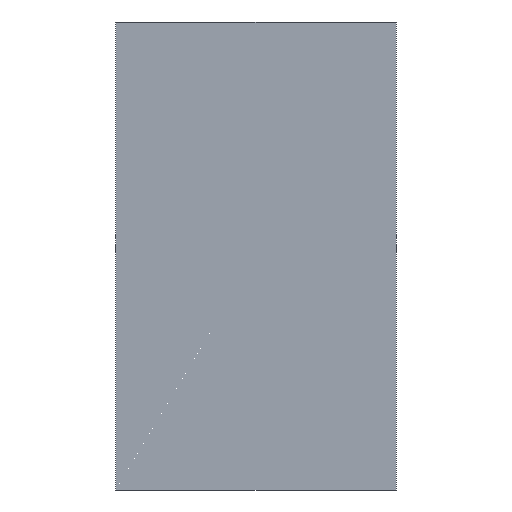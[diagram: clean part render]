
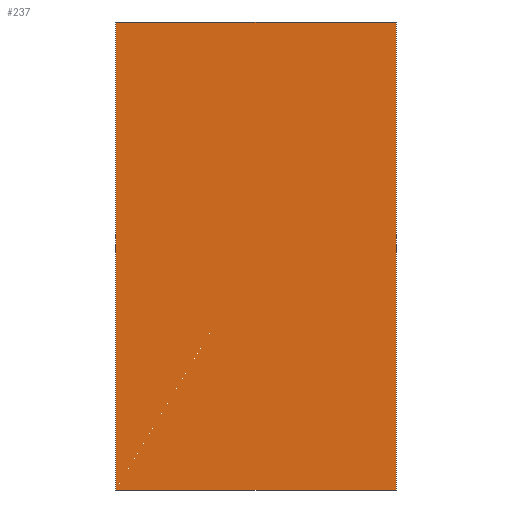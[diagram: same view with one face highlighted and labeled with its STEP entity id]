
A CAD part, front view. The second image highlights one B-rep face of the part: STEP entity #237.
In plain terms, the highlighted planar face has unit normal (0, -1, 0).
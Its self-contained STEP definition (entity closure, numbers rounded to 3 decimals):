
#21 = EDGE_CURVE('',#22,#24,#26,.T.);
#22 = VERTEX_POINT('',#23);
#23 = CARTESIAN_POINT('',(-384.5,-119.913,14.));
#24 = VERTEX_POINT('',#25);
#25 = CARTESIAN_POINT('',(-384.5,-119.913,19.));
#26 = SURFACE_CURVE('',#27,(#31,#43),.PCURVE_S1.);
#27 = LINE('',#28,#29);
#28 = CARTESIAN_POINT('',(-384.5,-119.913,14.));
#29 = VECTOR('',#30,1.);
#30 = DIRECTION('',(0.,0.,1.));
#31 = PCURVE('',#32,#37);
#32 = PLANE('',#33);
#33 = AXIS2_PLACEMENT_3D('',#34,#35,#36);
#34 = CARTESIAN_POINT('',(-384.5,-119.913,14.));
#35 = DIRECTION('',(1.,0.,-0.));
#36 = DIRECTION('',(0.,0.,1.));
#37 = DEFINITIONAL_REPRESENTATION('',(#38),#42);
#38 = LINE('',#39,#40);
#39 = CARTESIAN_POINT('',(0.,0.));
#40 = VECTOR('',#41,1.);
#41 = DIRECTION('',(1.,0.));
#42 = ( GEOMETRIC_REPRESENTATION_CONTEXT(2) 
PARAMETRIC_REPRESENTATION_CONTEXT() REPRESENTATION_CONTEXT('2D SPACE',''
  ) );
#43 = PCURVE('',#44,#49);
#44 = PLANE('',#45);
#45 = AXIS2_PLACEMENT_3D('',#46,#47,#48);
#46 = CARTESIAN_POINT('',(-384.5,-119.913,14.));
#47 = DIRECTION('',(-0.,1.,0.));
#48 = DIRECTION('',(0.,0.,1.));
#49 = DEFINITIONAL_REPRESENTATION('',(#50),#54);
#50 = LINE('',#51,#52);
#51 = CARTESIAN_POINT('',(0.,0.));
#52 = VECTOR('',#53,1.);
#53 = DIRECTION('',(1.,0.));
#54 = ( GEOMETRIC_REPRESENTATION_CONTEXT(2) 
PARAMETRIC_REPRESENTATION_CONTEXT() REPRESENTATION_CONTEXT('2D SPACE',''
  ) );
#72 = PLANE('',#73);
#73 = AXIS2_PLACEMENT_3D('',#74,#75,#76);
#74 = CARTESIAN_POINT('',(-384.5,-119.913,14.));
#75 = DIRECTION('',(0.,0.,1.));
#76 = DIRECTION('',(1.,0.,-0.));
#126 = PLANE('',#127);
#127 = AXIS2_PLACEMENT_3D('',#128,#129,#130);
#128 = CARTESIAN_POINT('',(-384.5,-119.913,19.));
#129 = DIRECTION('',(0.,0.,1.));
#130 = DIRECTION('',(1.,0.,-0.));
#141 = EDGE_CURVE('',#142,#144,#146,.T.);
#142 = VERTEX_POINT('',#143);
#143 = CARTESIAN_POINT('',(-381.5,-119.913,14.));
#144 = VERTEX_POINT('',#145);
#145 = CARTESIAN_POINT('',(-381.5,-119.913,19.));
#146 = SURFACE_CURVE('',#147,(#151,#163),.PCURVE_S1.);
#147 = LINE('',#148,#149);
#148 = CARTESIAN_POINT('',(-381.5,-119.913,14.));
#149 = VECTOR('',#150,1.);
#150 = DIRECTION('',(0.,0.,1.));
#151 = PCURVE('',#152,#157);
#152 = PLANE('',#153);
#153 = AXIS2_PLACEMENT_3D('',#154,#155,#156);
#154 = CARTESIAN_POINT('',(-381.5,-119.913,14.));
#155 = DIRECTION('',(1.,0.,-0.));
#156 = DIRECTION('',(0.,0.,1.));
#157 = DEFINITIONAL_REPRESENTATION('',(#158),#162);
#158 = LINE('',#159,#160);
#159 = CARTESIAN_POINT('',(0.,0.));
#160 = VECTOR('',#161,1.);
#161 = DIRECTION('',(1.,0.));
#162 = ( GEOMETRIC_REPRESENTATION_CONTEXT(2) 
PARAMETRIC_REPRESENTATION_CONTEXT() REPRESENTATION_CONTEXT('2D SPACE',''
  ) );
#163 = PCURVE('',#44,#164);
#164 = DEFINITIONAL_REPRESENTATION('',(#165),#169);
#165 = LINE('',#166,#167);
#166 = CARTESIAN_POINT('',(0.,3.));
#167 = VECTOR('',#168,1.);
#168 = DIRECTION('',(1.,0.));
#169 = ( GEOMETRIC_REPRESENTATION_CONTEXT(2) 
PARAMETRIC_REPRESENTATION_CONTEXT() REPRESENTATION_CONTEXT('2D SPACE',''
  ) );
#237 = ADVANCED_FACE('',(#238),#44,.F.);
#238 = FACE_BOUND('',#239,.F.);
#239 = EDGE_LOOP('',(#240,#261,#262,#283));
#240 = ORIENTED_EDGE('',*,*,#241,.F.);
#241 = EDGE_CURVE('',#22,#142,#242,.T.);
#242 = SURFACE_CURVE('',#243,(#247,#254),.PCURVE_S1.);
#243 = LINE('',#244,#245);
#244 = CARTESIAN_POINT('',(-384.5,-119.913,14.));
#245 = VECTOR('',#246,1.);
#246 = DIRECTION('',(1.,0.,-0.));
#247 = PCURVE('',#44,#248);
#248 = DEFINITIONAL_REPRESENTATION('',(#249),#253);
#249 = LINE('',#250,#251);
#250 = CARTESIAN_POINT('',(0.,0.));
#251 = VECTOR('',#252,1.);
#252 = DIRECTION('',(0.,1.));
#253 = ( GEOMETRIC_REPRESENTATION_CONTEXT(2) 
PARAMETRIC_REPRESENTATION_CONTEXT() REPRESENTATION_CONTEXT('2D SPACE',''
  ) );
#254 = PCURVE('',#72,#255);
#255 = DEFINITIONAL_REPRESENTATION('',(#256),#260);
#256 = LINE('',#257,#258);
#257 = CARTESIAN_POINT('',(0.,0.));
#258 = VECTOR('',#259,1.);
#259 = DIRECTION('',(1.,0.));
#260 = ( GEOMETRIC_REPRESENTATION_CONTEXT(2) 
PARAMETRIC_REPRESENTATION_CONTEXT() REPRESENTATION_CONTEXT('2D SPACE',''
  ) );
#261 = ORIENTED_EDGE('',*,*,#21,.T.);
#262 = ORIENTED_EDGE('',*,*,#263,.T.);
#263 = EDGE_CURVE('',#24,#144,#264,.T.);
#264 = SURFACE_CURVE('',#265,(#269,#276),.PCURVE_S1.);
#265 = LINE('',#266,#267);
#266 = CARTESIAN_POINT('',(-384.5,-119.913,19.));
#267 = VECTOR('',#268,1.);
#268 = DIRECTION('',(1.,0.,-0.));
#269 = PCURVE('',#44,#270);
#270 = DEFINITIONAL_REPRESENTATION('',(#271),#275);
#271 = LINE('',#272,#273);
#272 = CARTESIAN_POINT('',(5.,0.));
#273 = VECTOR('',#274,1.);
#274 = DIRECTION('',(0.,1.));
#275 = ( GEOMETRIC_REPRESENTATION_CONTEXT(2) 
PARAMETRIC_REPRESENTATION_CONTEXT() REPRESENTATION_CONTEXT('2D SPACE',''
  ) );
#276 = PCURVE('',#126,#277);
#277 = DEFINITIONAL_REPRESENTATION('',(#278),#282);
#278 = LINE('',#279,#280);
#279 = CARTESIAN_POINT('',(0.,0.));
#280 = VECTOR('',#281,1.);
#281 = DIRECTION('',(1.,0.));
#282 = ( GEOMETRIC_REPRESENTATION_CONTEXT(2) 
PARAMETRIC_REPRESENTATION_CONTEXT() REPRESENTATION_CONTEXT('2D SPACE',''
  ) );
#283 = ORIENTED_EDGE('',*,*,#141,.F.);
